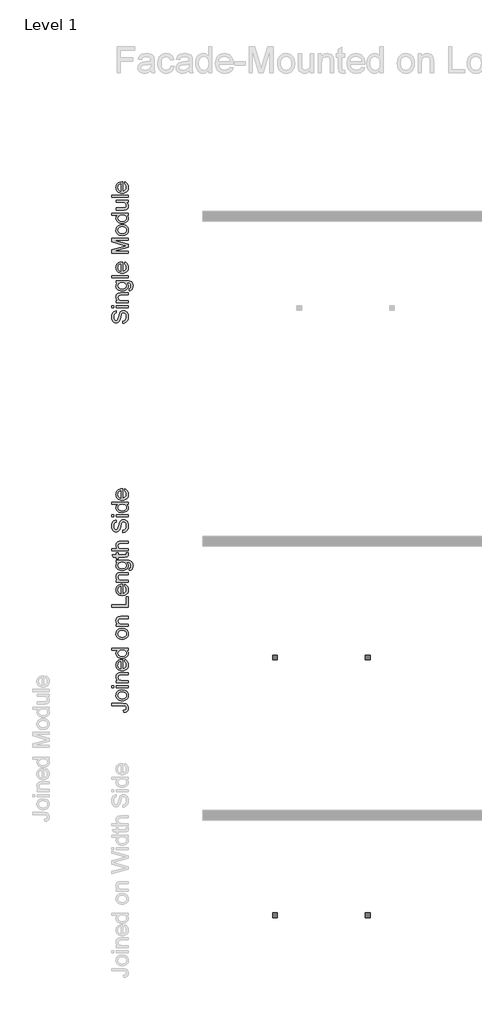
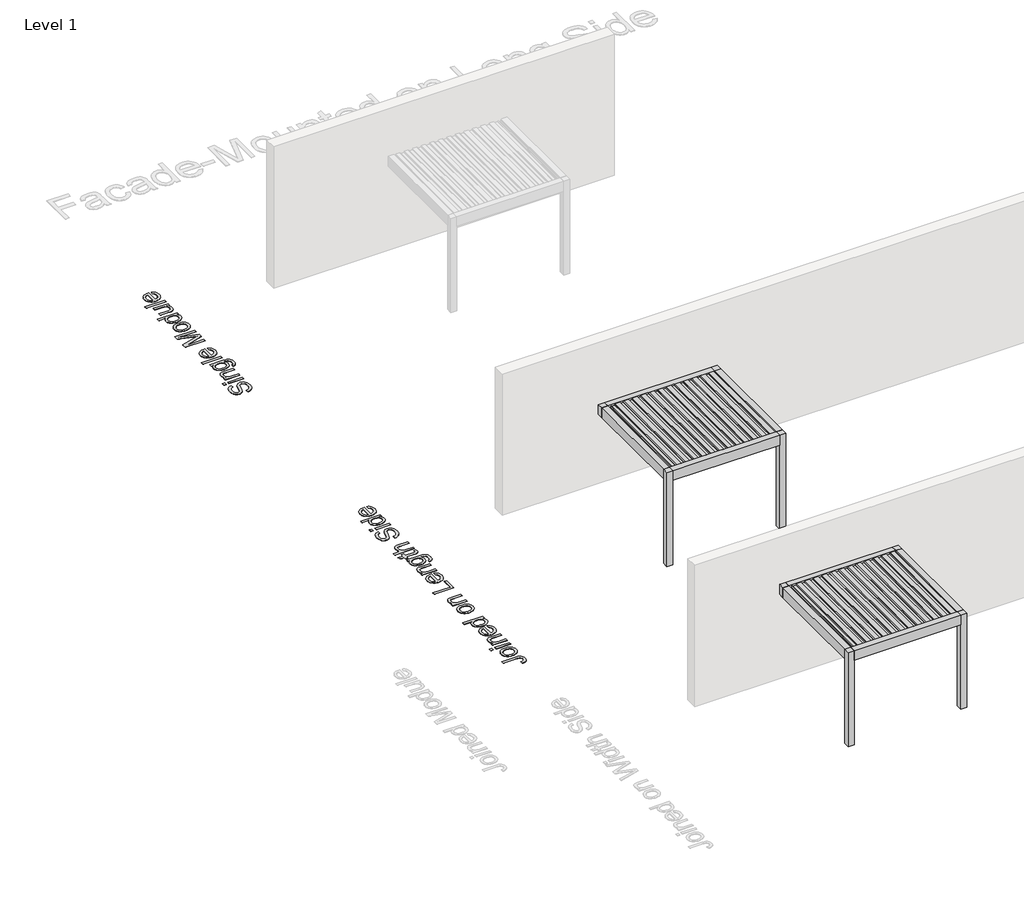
# One storey, part 11 of 69: 4 proxies.
"""IFC4 building model written with IfcOpenShell, lengths in millimetres."""

from ifc_helpers import new_model, si_unit, origin, origin_with_axes, place, context, project, spatial, polyline, outline, extrude, transform, mapped, element, save
from components import generic_models_66309c40

model = new_model("IFC4")

# Units and contexts
model_context = context("Model", 3, world=origin())
ifc_project = project(units=[si_unit("LENGTHUNIT", "METRE", prefix="MILLI")], contexts=[model_context])

# Site, building, storey
site = spatial("IfcSite", under=ifc_project)
building = spatial("IfcBuilding", under=site)
storey = spatial("IfcBuildingStorey", under=building, Name="Level 1", Elevation=0.0)

# Proxies
placement = place(None, origin())
generic_models_shape = generic_models_66309c40(model_context)
element("IfcBuildingElementProxy", 1, Name="Renson_Camargue_Facade-Mounted_Patio covers : Renson_Camargue_Facade-Mounted_Patio covers", ObjectType="Renson_Camargue_Facade-Mounted_Patio covers : Renson_Camargue_Facade-Mounted_Patio covers", at=placement, inside=storey, context=model_context, shape_type="MappedRepresentation", body=[
    mapped(generic_models_shape, transform((-10046.834943, -29650.5588086, 0.0), x_axis=(1.0, 0.0, 0.0), y_axis=(0.0, 1.0, 0.0), z_axis=(0.0, 0.0, 1.0))),
])
element("IfcBuildingElementProxy", 2, Name="Renson_Camargue_Facade-Mounted_Patio covers : Renson_Camargue_Facade-Mounted_Patio covers", ObjectType="Renson_Camargue_Facade-Mounted_Patio covers : Renson_Camargue_Facade-Mounted_Patio covers", at=placement, inside=storey, context=model_context, shape_type="MappedRepresentation", body=[
    mapped(generic_models_shape, transform((-10046.834943, -21725.9863343, 0.0), x_axis=(1.0, 0.0, 0.0), y_axis=(0.0, 1.0, 0.0), z_axis=(0.0, 0.0, 1.0))),
])
element("IfcBuildingElementProxy", 3, Name="500mm Arial", ObjectType="500mm Arial", at=placement, inside=storey, context=model_context, shape_type="SweptSolid", body=[
    extrude(outline(polyline([(-16159.6666242, -12871.2770418), (-16159.6666242, -12808.491848), (-16124.8251336, -12801.2874922), (-16096.8201167, -12788.2583382), (-16074.5939129, -12767.932858), (-16057.0888612, -12738.8395236), (-16045.7305046, -12703.2775974), (-16041.9443858, -12663.5463419), (-16044.8107997, -12628.5668955), (-16053.4100413, -12597.9407194), (-16067.0216751, -12573.1240132), (-16084.9252655, -12555.5729763), (-16105.480672, -12545.1343247), (-16127.047754, -12541.6547741), (-16148.063013, -12544.2606049), (-16166.2271865, -12552.0780973), (-16181.7242155, -12567.9583368), (-16194.7380411, -12594.7524088), (-16218.7116845, -12686.1710846), (-16234.5765955, -12746.181835), (-16249.6750857, -12784.5795183), (-16270.7976436, -12815.8341595), (-16296.3960991, -12837.9837213), (-16325.9186292, -12851.1814878), (-16358.813411, -12855.5807434), (-16395.5862821, -12850.1391555), (-16429.8759497, -12833.814392), (-16445.4036356, -12821.6781182), (-16458.9386273, -12807.0356484), (-16480.0305284, -12770.2321205), (-16492.860413, -12726.0556242), (-16497.1370411, -12677.1579757), (-16492.6611435, -12624.1829684), (-16479.2334507, -12577.829837), (-16457.1298742, -12539.7540505), (-16442.9280963, -12524.4409625), (-16426.6263254, -12511.6110779), (-16389.6235281, -12493.7994579), (-16348.0222058, -12486.7177295), (-16348.0222058, -12549.5029234), (-16368.0564461, -12553.7029095), (-16385.4848556, -12561.0298926), (-16400.3074343, -12571.4838726), (-16412.5241823, -12585.0648496), (-16422.0737857, -12602.0257424), (-16428.894931, -12622.6194699), (-16434.3518473, -12674.7054291), (-16428.9562447, -12728.0176615), (-16422.2117415, -12748.3967912), (-16412.7694369, -12764.5912632), (-16401.4187445, -12776.9306385), (-16388.9490777, -12785.7444779), (-16375.3604365, -12791.0327816), (-16360.6528209, -12792.7955495), (-16336.5258934, -12787.7984858), (-16317.1201182, -12772.8072944), (-16308.4902197, -12759.0423765), (-16299.7683507, -12737.3679956), (-16282.0487013, -12670.2908451), (-16265.2181, -12601.0677164), (-16250.533477, -12559.1904826), (-16227.7554502, -12523.3986301), (-16199.6431344, -12498.4286397), (-16166.503098, -12483.7593452), (-16128.6419093, -12478.8695803), (-16089.9376577, -12484.4951091), (-16053.5326686, -12501.3716957), (-16022.2013854, -12528.8095611), (-15998.7182513, -12566.1189268), (-15984.0489568, -12610.9852018), (-15979.1591919, -12661.0937952), (-15984.4321672, -12722.6067305), (-15991.0233863, -12749.2820073), (-16000.251093, -12773.2364901), (-16012.1306158, -12794.615799), (-16026.677283, -12813.5655538), (-16043.8910947, -12830.0857547), (-16063.7720508, -12844.1764015), (-16085.676358, -12855.5270939), (-16108.9602226, -12863.8274314), (-16133.6236447, -12869.0774141), (-16159.6666242, -12871.2770418)])), origin_with_axes(), (0.0, 0.0, 1.0), 5.0),
    extrude(outline(polyline([(-16426.5036981, -12392.5399388), (-16489.2888919, -12392.5399388), (-16489.2888919, -12329.7547449), (-16426.5036981, -12329.7547449), (-16426.5036981, -12392.5399388)])), origin_with_axes(), (0.0, 0.0, 1.0), 5.0),
    extrude(outline(polyline([(-15987.0073412, -12392.5399388), (-16355.870355, -12392.5399388), (-16355.870355, -12329.7547449), (-15987.0073412, -12329.7547449), (-15987.0073412, -12392.5399388)])), origin_with_axes(), (0.0, 0.0, 1.0), 5.0),
    extrude(outline(polyline([(-15987.0073412, -12235.5769542), (-16355.870355, -12235.5769542), (-16355.870355, -12172.7917603), (-16304.3668757, -12172.7917603), (-16330.3332132, -12150.9794237), (-16348.8805971, -12124.7831599), (-16360.0090274, -12094.2029691), (-16363.7185042, -12059.2388511), (-16360.729463, -12028.2907783), (-16351.7623394, -11999.9485362), (-16337.9361077, -11976.3121181), (-16320.3697425, -11959.4815168), (-16299.1092288, -11948.0618465), (-16274.2005521, -11940.6582214), (-16213.5000229, -11937.3472834), (-15987.0073412, -11937.3472834), (-15987.0073412, -12000.1324772), (-16205.038737, -12000.1324772), (-16237.504323, -12001.9412304), (-16260.5889182, -12007.3674898), (-16277.1282796, -12017.3769458), (-16289.9581642, -12032.9352885), (-16298.1895238, -12052.8775583), (-16300.9333104, -12076.0387956), (-16299.3928045, -12095.1035136), (-16294.771287, -12112.8116667), (-16287.0687577, -12129.163255), (-16276.2852167, -12144.1582784), (-16261.1943907, -12156.6854267), (-16240.5700063, -12165.6333898), (-16214.4120636, -12171.0021677), (-16182.7205626, -12172.7917603), (-15987.0073412, -12172.7917603), (-15987.0073412, -12235.5769542)])), origin_with_axes(), (0.0, 0.0, 1.0), 5.0),
    extrude(outline(polyline([(-15955.6147442, -11866.7139403), (-15947.766595, -11803.9287465), (-15928.1462219, -11797.0003022), (-15914.6572154, -11783.5726094), (-15904.1725786, -11757.1770763), (-15900.6776996, -11722.6268256), (-15904.6324311, -11685.7773124), (-15916.4966254, -11658.3701037), (-15935.5038618, -11639.3628673), (-15960.8877195, -11627.7132708), (-15987.8963893, -11624.3103623), (-16034.0962365, -11623.4213142), (-16013.4948448, -11644.3139458), (-15998.779565, -11667.6284673), (-15989.9503971, -11693.3648785), (-15987.0073412, -11721.5231796), (-15990.4332422, -11755.9469708), (-16000.7109455, -11786.2550823), (-16017.8404509, -11812.4475139), (-16041.8217584, -11834.5242658), (-16070.5931962, -11852.0408137), (-16102.093092, -11864.5526336), (-16136.321446, -11872.0597256), (-16173.2782581, -11874.5620896), (-16223.9693313, -11870.0708635), (-16270.5830458, -11856.5971855), (-16310.084375, -11834.6162362), (-16326.0297602, -11820.6137278), (-16339.4382925, -11804.6031968), (-16350.0608852, -11786.8413942), (-16357.6484513, -11767.585071), (-16362.200991, -11746.8342273), (-16363.7185042, -11724.5888629), (-16360.2849389, -11695.2272811), (-16349.9842431, -11668.5788291), (-16332.8164166, -11644.6435068), (-16308.7814596, -11623.4213142), (-16355.870355, -11623.4213142), (-16355.870355, -11560.6361203), (-16037.4071745, -11560.6361203), (-15963.8767607, -11564.928077), (-15936.5270336, -11570.2930227), (-15915.4542931, -11577.8039468), (-15883.3412606, -11599.9841654), (-15858.7391522, -11632.1891684), (-15849.6187444, -11651.8746872), (-15843.1041674, -11673.7138486), (-15837.8925058, -11723.8530989), (-15839.7280837, -11754.6133986), (-15845.2348173, -11782.269694), (-15854.4127066, -11806.8219851), (-15867.2617517, -11828.2702718), (-15883.797281, -11845.5952145), (-15904.0346228, -11857.7774735), (-15927.9737773, -11864.8170488), (-15955.6147442, -11866.7139403)]), holes=[polyline([(-16177.5702147, -11811.7768957), (-16146.5263392, -11810.1022662), (-16119.981354, -11805.0783777), (-16097.935259, -11796.7052302), (-16080.3880543, -11784.9828237), (-16067.0025146, -11770.7312285), (-16057.4414148, -11754.7705149), (-16051.704755, -11737.1006828), (-16049.792535, -11717.7217323), (-16051.6932587, -11698.534387), (-16057.3954296, -11680.9488612), (-16066.8990478, -11664.9651549), (-16080.2041133, -11650.5832682), (-16097.5788733, -11638.6999133), (-16119.2915753, -11630.2118027), (-16145.342219, -11625.1189363), (-16175.7308047, -11623.4213142), (-16204.8509639, -11625.1687537), (-16230.1620116, -11630.4110721), (-16251.6639478, -11639.1482695), (-16269.3567725, -11651.3803458), (-16283.1715078, -11666.072633), (-16293.0391759, -11682.1904629), (-16298.9597768, -11699.7338356), (-16300.9333104, -11718.7027509), (-16298.9904336, -11737.3536017), (-16293.1618032, -11754.555917), (-16283.4474193, -11770.3096971), (-16269.8472818, -11784.6149417), (-16252.4227044, -11796.4982966), (-16231.2350007, -11804.9864072), (-16206.2841708, -11810.0792736), (-16177.5702147, -11811.7768957)])]), origin_with_axes(), (0.0, 0.0, 1.0), 5.0),
    extrude(outline(polyline([(-15987.0073412, -11466.4583296), (-16489.2888919, -11466.4583296), (-16489.2888919, -11403.6731357), (-15987.0073412, -11403.6731357), (-15987.0073412, -11466.4583296)])), origin_with_axes(), (0.0, 0.0, 1.0), 5.0),
    extrude(outline(polyline([(-16096.8814304, -11051.2421844), (-16089.0332812, -10989.6832638), (-16064.3775233, -10999.1217363), (-16042.6494929, -11011.8634825), (-16023.8491901, -11027.9085024), (-16007.9766149, -11047.2567961), (-15995.3689923, -11069.7090941), (-15986.3635477, -11095.066127), (-15980.9602809, -11123.3278949), (-15979.1591919, -11154.4943977), (-15982.2670284, -11193.4515681), (-15991.5905377, -11228.1627672), (-16007.1297199, -11258.6279949), (-16028.884575, -11284.8472513), (-16056.2496304, -11305.9314881), (-16088.6194139, -11320.9916573), (-16125.9939254, -11330.0277588), (-16168.3731648, -11333.0397927), (-16212.1894433, -11329.997102), (-16250.8093885, -11320.86903), (-16284.2330006, -11305.6555766), (-16312.4602796, -11284.356742), (-16334.8857529, -11258.2064635), (-16350.9039481, -11228.4386787), (-16360.5148652, -11195.0533876), (-16363.7185042, -11158.0505903), (-16360.5225294, -11122.2395773), (-16350.9346049, -11089.8544654), (-16334.9547307, -11060.8952546), (-16312.5829069, -11035.3619449), (-16284.4169416, -11014.5191306), (-16251.0546432, -10999.6314061), (-16212.4960116, -10990.6987714), (-16168.7410468, -10987.7212265), (-16151.818475, -10988.0891085), (-16151.818475, -11270.2545988), (-16126.7641783, -11266.617932), (-16104.8215501, -11259.3867515), (-16085.9905905, -11248.5610574), (-16070.2712994, -11234.1408496), (-16057.8782747, -11216.9232058), (-16049.0261142, -11197.7052037), (-16043.7148179, -11176.4868432), (-16041.9443858, -11153.2681243), (-16045.2246669, -11119.8521765), (-16055.0655103, -11091.7092038), (-16072.0800526, -11068.8392065), (-16096.8814304, -11051.2421844)]), holes=[polyline([(-16214.6036688, -11270.2545988), (-16214.6036688, -11050.5064204), (-16247.7743621, -11058.9983631), (-16271.5027508, -11075.6450234), (-16284.3786206, -11092.7668646), (-16293.5756705, -11112.2492819), (-16299.0939004, -11134.0922754), (-16300.9333104, -11158.295845), (-16295.0625269, -11200.6176028), (-16287.7240475, -11219.0308631), (-16277.4501764, -11235.6123776), (-16264.7160944, -11249.5267477), (-16249.9969825, -11259.9385745), (-16233.2928406, -11266.8478583), (-16214.6036688, -11270.2545988)])]), origin_with_axes(), (0.0, 0.0, 1.0), 5.0),
    extrude(outline(polyline([(-15987.0073412, -10720.8841527), (-16489.2888919, -10720.8841527), (-16489.2888919, -10612.8494734), (-16135.2637852, -10510.0877694), (-16061.3195042, -10489.3637504), (-16141.3951518, -10466.9229487), (-16489.2888919, -10365.8780273), (-16489.2888919, -10257.8433481), (-15987.0073412, -10257.8433481), (-15987.0073412, -10320.6285419), (-16426.5036981, -10320.6285419), (-15987.0073412, -10446.8120663), (-15987.0073412, -10531.9154345), (-16426.5036981, -10658.0989588), (-15987.0073412, -10658.0989588), (-15987.0073412, -10720.8841527)])), origin_with_axes(), (0.0, 0.0, 1.0), 5.0),
    extrude(outline(polyline([(-16171.4388481, -10171.5137066), (-16219.209858, -10168.1184623), (-16260.3743204, -10157.9327296), (-16294.9322353, -10140.9565083), (-16322.8836028, -10117.1897986), (-16340.7488722, -10093.2621405), (-16353.5097789, -10066.8512789), (-16361.1663229, -10037.9572139), (-16363.7185042, -10006.5799454), (-16360.6106678, -9971.9415563), (-16351.2871585, -9940.6217693), (-16335.7479763, -9912.6205846), (-16313.9931212, -9887.9380019), (-16286.7583573, -9867.7926306), (-16254.7794484, -9853.4030796), (-16218.0563947, -9844.7693491), (-16176.589196, -9841.8914389), (-16113.1602087, -9846.9804731), (-16087.1248933, -9853.341766), (-16064.8756968, -9862.2475759), (-16045.6576947, -9873.586772), (-16028.7159624, -9887.2482232), (-16014.0504999, -9903.2319295), (-16001.6613073, -9921.5378908), (-15984.7847208, -9962.2654934), (-15979.1591919, -10006.5799454), (-15982.2555321, -10041.7241722), (-15991.5445524, -10073.3351991), (-16007.0262531, -10101.413026), (-16028.700634, -10125.9576528), (-16056.1998131, -10145.8884263), (-16089.1559085, -10160.1246931), (-16127.5689202, -10168.6664532), (-16171.4388481, -10171.5137066)]), holes=[polyline([(-16171.5614754, -10108.7285127), (-16141.107744, -10106.9120954), (-16114.7390356, -10101.4628433), (-16092.4553501, -10092.3807566), (-16074.2566877, -10079.6658351), (-16060.1200556, -10064.1994629), (-16050.0224613, -10046.8630239), (-16043.9639046, -10027.656518), (-16041.9443858, -10006.5799454), (-16043.975401, -9985.6106717), (-16050.0684465, -9966.4808079), (-16060.2235224, -9949.1903541), (-16074.4406287, -9933.7393103), (-16092.8194, -9921.0243889), (-16115.4594711, -9911.9423021), (-16142.360842, -9906.4930501), (-16173.5235127, -9904.6766327), (-16203.0115539, -9906.5045464), (-16228.6904836, -9911.9882874), (-16250.5603018, -9921.1278557), (-16268.6210085, -9933.9232513), (-16282.7576406, -9949.4317767), (-16292.8552349, -9966.7107342), (-16298.9137915, -9985.7601237), (-16300.9333104, -10006.5799454), (-16298.9214557, -10027.656518), (-16292.8858917, -10046.8630239), (-16282.8266184, -10064.1994629), (-16268.7436358, -10079.6658351), (-16250.5986228, -10092.3807566), (-16228.3532584, -10101.4628433), (-16202.0075426, -10106.9120954), (-16171.5614754, -10108.7285127)])]), origin_with_axes(), (0.0, 0.0, 1.0), 5.0),
    extrude(outline(polyline([(-15987.0073412, -9543.6617681), (-16046.2363424, -9543.6617681), (-16016.8900891, -9562.4467425), (-15995.9284795, -9585.2017767), (-15983.3515138, -9611.9268708), (-15979.1591919, -9642.6220248), (-15985.2292449, -9683.2116716), (-16003.4394036, -9720.3677531), (-16032.5174097, -9751.8216637), (-16071.1910044, -9775.3047977), (-16117.8966894, -9789.9281071), (-16171.0709661, -9794.8025435), (-16223.5861209, -9790.3113175), (-16271.0122414, -9776.8376394), (-16292.1424635, -9766.7362129), (-16310.6515264, -9754.3968377), (-16326.5394301, -9739.8195136), (-16339.8061745, -9723.0042408), (-16357.7404218, -9685.0357532), (-16363.7185042, -9642.8672795), (-16359.441876, -9612.1491329), (-16346.6119915, -9584.9871789), (-16326.9456331, -9561.9638974), (-16302.1595837, -9543.6617681), (-16489.2888919, -9543.6617681), (-16489.2888919, -9480.8765743), (-15987.0073412, -9480.8765743), (-15987.0073412, -9543.6617681)]), holes=[polyline([(-16171.3162207, -9732.0173496), (-16140.8701535, -9730.2469175), (-16114.5244377, -9724.9356212), (-16092.2790733, -9716.0834607), (-16074.1340604, -9703.690436), (-16060.0510777, -9688.8908499), (-16049.9918044, -9672.8190053), (-16043.9562404, -9655.474902), (-16041.9443858, -9636.8585402), (-16043.8642699, -9618.15404), (-16049.6239224, -9600.9134036), (-16059.2233432, -9585.136631), (-16072.6625324, -9570.8237221), (-16090.0487888, -9558.9403672), (-16111.4894113, -9550.4522566), (-16136.9844, -9545.3593902), (-16166.5337548, -9543.6617681), (-16198.930363, -9545.3900471), (-16226.7131179, -9550.5748839), (-16249.8820193, -9559.2162787), (-16268.4370675, -9571.3142314), (-16282.6541737, -9585.9413728), (-16292.8092497, -9602.1703338), (-16298.9022952, -9620.0011142), (-16300.9333104, -9639.4337142), (-16298.9827694, -9658.417958), (-16293.1311464, -9675.7620612), (-16283.3784414, -9691.4660239), (-16269.7246545, -9705.529846), (-16251.8708814, -9717.1181288), (-16229.5182181, -9725.3954737), (-16202.6666645, -9730.3618807), (-16171.3162207, -9732.0173496)])]), origin_with_axes(), (0.0, 0.0, 1.0), 5.0),
    extrude(outline(polyline([(-15987.0073412, -9151.2543066), (-16050.4056717, -9151.2543066), (-16019.2353368, -9173.9710198), (-15996.9708119, -9200.4278666), (-15983.6120969, -9230.6248471), (-15979.1591919, -9264.5619611), (-15982.2861889, -9295.142152), (-15991.6671798, -9323.6070213), (-16005.7693229, -9347.4886942), (-16023.0597767, -9364.3192955), (-16044.0597073, -9375.6469952), (-16069.2902808, -9383.0199636), (-16127.6608907, -9386.6987835), (-16355.870355, -9386.6987835), (-16355.870355, -9323.9135897), (-16157.2140776, -9323.9135897), (-16093.2026104, -9320.1121424), (-16071.8501263, -9310.9610778), (-16055.6173333, -9295.2801077), (-16045.3626227, -9274.1115646), (-16041.9443858, -9248.4977807), (-16045.4392647, -9221.4124688), (-16055.9239016, -9196.0745963), (-16072.4326061, -9175.1819647), (-16093.9996881, -9161.4323751), (-16123.5375466, -9153.7988237), (-16163.9585808, -9151.2543066), (-16355.870355, -9151.2543066), (-16355.870355, -9088.4691128), (-15987.0073412, -9088.4691128), (-15987.0073412, -9151.2543066)])), origin_with_axes(), (0.0, 0.0, 1.0), 5.0),
    extrude(outline(polyline([(-15987.0073412, -9002.1394712), (-16489.2888919, -9002.1394712), (-16489.2888919, -8939.3542774), (-15987.0073412, -8939.3542774), (-15987.0073412, -9002.1394712)])), origin_with_axes(), (0.0, 0.0, 1.0), 5.0),
    extrude(outline(polyline([(-16096.8814304, -8586.923326), (-16089.0332812, -8525.3644055), (-16064.3775233, -8534.8028779), (-16042.6494929, -8547.5446241), (-16023.8491901, -8563.589644), (-16007.9766149, -8582.9379377), (-15995.3689923, -8605.3902357), (-15986.3635477, -8630.7472687), (-15980.9602809, -8659.0090365), (-15979.1591919, -8690.1755393), (-15982.2670284, -8729.1327098), (-15991.5905377, -8763.8439088), (-16007.1297199, -8794.3091366), (-16028.884575, -8820.5283929), (-16056.2496304, -8841.6126298), (-16088.6194139, -8856.672799), (-16125.9939254, -8865.7089005), (-16168.3731648, -8868.7209343), (-16212.1894433, -8865.6782436), (-16250.8093885, -8856.5501716), (-16284.2330006, -8841.3367183), (-16312.4602796, -8820.0378836), (-16334.8857529, -8793.8876051), (-16350.9039481, -8764.1198203), (-16360.5148652, -8730.7345293), (-16363.7185042, -8693.7317319), (-16360.5225294, -8657.920719), (-16350.9346049, -8625.5356071), (-16334.9547307, -8596.5763963), (-16312.5829069, -8571.0430865), (-16284.4169416, -8550.2002722), (-16251.0546432, -8535.3125478), (-16212.4960116, -8526.3799131), (-16168.7410468, -8523.4023682), (-16151.818475, -8523.7702502), (-16151.818475, -8805.9357405), (-16126.7641783, -8802.2990737), (-16104.8215501, -8795.0678932), (-16085.9905905, -8784.2421991), (-16070.2712994, -8769.8219913), (-16057.8782747, -8752.6043475), (-16049.0261142, -8733.3863453), (-16043.7148179, -8712.1679848), (-16041.9443858, -8688.949266), (-16045.2246669, -8655.5333181), (-16055.0655103, -8627.3903455), (-16072.0800526, -8604.5203481), (-16096.8814304, -8586.923326)]), holes=[polyline([(-16214.6036688, -8805.9357405), (-16214.6036688, -8586.187562), (-16247.7743621, -8594.6795047), (-16271.5027508, -8611.326165), (-16284.3786206, -8628.4480062), (-16293.5756705, -8647.9304235), (-16299.0939004, -8669.773417), (-16300.9333104, -8693.9769866), (-16295.0625269, -8736.2987445), (-16287.7240475, -8754.7120047), (-16277.4501764, -8771.2935192), (-16264.7160944, -8785.2078893), (-16249.9969825, -8795.6197162), (-16233.2928406, -8802.5289999), (-16214.6036688, -8805.9357405)])]), origin_with_axes(), (0.0, 0.0, 1.0), 5.0),
])
element("IfcBuildingElementProxy", 4, Name="500mm Arial", ObjectType="500mm Arial", at=placement, inside=storey, context=model_context, shape_type="SweptSolid", body=[
    extrude(outline(polyline([(-16128.0287727, -24838.7531425), (-16136.1221765, -24775.9679487), (-16090.4741523, -24769.4380433), (-16074.0650825, -24763.023101), (-16061.9326409, -24754.5081656), (-16046.9414495, -24731.6994819), (-16041.9443858, -24701.5331583), (-16044.7801428, -24678.3412642), (-16053.287414, -24658.5522786), (-16066.68445, -24643.2851758), (-16084.1895016, -24633.6589302), (-16109.527374, -24628.5545675), (-16146.4228724, -24626.8531133), (-16489.2888919, -24626.8531133), (-16489.2888919, -24564.0679195), (-16147.5265184, -24564.0679195), (-16091.6237835, -24567.8540383), (-16049.976476, -24579.2123949), (-16019.5495693, -24598.8021112), (-15997.308037, -24627.282309), (-15983.6964032, -24663.0435046), (-15979.1591919, -24704.4762143), (-15981.5006076, -24735.4166229), (-15988.5248544, -24762.509599), (-16000.2319325, -24785.7551426), (-16016.6218418, -24805.1532536), (-16037.6332686, -24820.3590428), (-16063.2048994, -24831.0276206), (-16093.3367341, -24837.1589872), (-16128.0287727, -24838.7531425)])), origin_with_axes(), (0.0, 0.0, 1.0), 5.0),
    extrude(outline(polyline([(-16171.4388481, -24477.7382779), (-16219.209858, -24474.3430337), (-16260.3743204, -24464.157301), (-16294.9322353, -24447.1810797), (-16322.8836028, -24423.41437), (-16340.7488722, -24399.4867119), (-16353.5097789, -24373.0758503), (-16361.1663229, -24344.1817853), (-16363.7185042, -24312.8045168), (-16360.6106678, -24278.1661277), (-16351.2871585, -24246.8463407), (-16335.7479763, -24218.8451559), (-16313.9931212, -24194.1625733), (-16286.7583573, -24174.017202), (-16254.7794484, -24159.627651), (-16218.0563947, -24150.9939205), (-16176.589196, -24148.1160103), (-16113.1602087, -24153.2050445), (-16087.1248933, -24159.5663374), (-16064.8756968, -24168.4721473), (-16045.6576947, -24179.8113434), (-16028.7159624, -24193.4727946), (-16014.0504999, -24209.4565009), (-16001.6613073, -24227.7624622), (-15984.7847208, -24268.4900648), (-15979.1591919, -24312.8045168), (-15982.2555321, -24347.9487436), (-15991.5445524, -24379.5597705), (-16007.0262531, -24407.6375973), (-16028.700634, -24432.1822242), (-16056.1998131, -24452.1129977), (-16089.1559085, -24466.3492645), (-16127.5689202, -24474.8910246), (-16171.4388481, -24477.7382779)]), holes=[polyline([(-16171.5614754, -24414.9530841), (-16141.107744, -24413.1366667), (-16114.7390356, -24407.6874147), (-16092.4553501, -24398.6053279), (-16074.2566877, -24385.8904065), (-16060.1200556, -24370.4240343), (-16050.0224613, -24353.0875952), (-16043.9639046, -24333.8810894), (-16041.9443858, -24312.8045168), (-16043.975401, -24291.835243), (-16050.0684465, -24272.7053793), (-16060.2235224, -24255.4149255), (-16074.4406287, -24239.9638817), (-16092.8194, -24227.2489603), (-16115.4594711, -24218.1668735), (-16142.360842, -24212.7176215), (-16173.5235127, -24210.9012041), (-16203.0115539, -24212.7291178), (-16228.6904836, -24218.2128588), (-16250.5603018, -24227.3524271), (-16268.6210085, -24240.1478227), (-16282.7576406, -24255.6563481), (-16292.8552349, -24272.9353055), (-16298.9137915, -24291.9846951), (-16300.9333104, -24312.8045168), (-16298.9214557, -24333.8810894), (-16292.8858917, -24353.0875952), (-16282.8266184, -24370.4240343), (-16268.7436358, -24385.8904065), (-16250.5986228, -24398.6053279), (-16228.3532584, -24407.6874147), (-16202.0075426, -24413.1366667), (-16171.5614754, -24414.9530841)])]), origin_with_axes(), (0.0, 0.0, 1.0), 5.0),
    extrude(outline(polyline([(-16426.5036981, -24077.4826672), (-16489.2888919, -24077.4826672), (-16489.2888919, -24014.6974733), (-16426.5036981, -24014.6974733), (-16426.5036981, -24077.4826672)])), origin_with_axes(), (0.0, 0.0, 1.0), 5.0),
    extrude(outline(polyline([(-15987.0073412, -24077.4826672), (-16355.870355, -24077.4826672), (-16355.870355, -24014.6974733), (-15987.0073412, -24014.6974733), (-15987.0073412, -24077.4826672)])), origin_with_axes(), (0.0, 0.0, 1.0), 5.0),
    extrude(outline(polyline([(-15987.0073412, -23920.5196826), (-16355.870355, -23920.5196826), (-16355.870355, -23857.7344887), (-16304.3668757, -23857.7344887), (-16330.3332132, -23835.9221521), (-16348.8805971, -23809.7258884), (-16360.0090274, -23779.1456975), (-16363.7185042, -23744.1815796), (-16360.729463, -23713.2335067), (-16351.7623394, -23684.8912647), (-16337.9361077, -23661.2548465), (-16320.3697425, -23644.4242452), (-16299.1092288, -23633.0045749), (-16274.2005521, -23625.6009498), (-16213.5000229, -23622.2900118), (-15987.0073412, -23622.2900118), (-15987.0073412, -23685.0752057), (-16205.038737, -23685.0752057), (-16237.504323, -23686.8839588), (-16260.5889182, -23692.3102182), (-16277.1282796, -23702.3196742), (-16289.9581642, -23717.8780169), (-16298.1895238, -23737.8202867), (-16300.9333104, -23760.981524), (-16299.3928045, -23780.046242), (-16294.771287, -23797.7543951), (-16287.0687577, -23814.1059834), (-16276.2852167, -23829.1010068), (-16261.1943907, -23841.6281551), (-16240.5700063, -23850.5761182), (-16214.4120636, -23855.9448961), (-16182.7205626, -23857.7344887), (-15987.0073412, -23857.7344887), (-15987.0073412, -23920.5196826)])), origin_with_axes(), (0.0, 0.0, 1.0), 5.0),
    extrude(outline(polyline([(-16096.8814304, -23277.7072097), (-16089.0332812, -23216.1482891), (-16064.3775233, -23225.5867616), (-16042.6494929, -23238.3285078), (-16023.8491901, -23254.3735277), (-16007.9766149, -23273.7218214), (-15995.3689923, -23296.1741194), (-15986.3635477, -23321.5311523), (-15980.9602809, -23349.7929202), (-15979.1591919, -23380.959423), (-15982.2670284, -23419.9165934), (-15991.5905377, -23454.6277925), (-16007.1297199, -23485.0930202), (-16028.884575, -23511.3122766), (-16056.2496304, -23532.3965135), (-16088.6194139, -23547.4566826), (-16125.9939254, -23556.4927841), (-16168.3731648, -23559.504818), (-16212.1894433, -23556.4621273), (-16250.8093885, -23547.3340553), (-16284.2330006, -23532.120602), (-16312.4602796, -23510.8217673), (-16334.8857529, -23484.6714888), (-16350.9039481, -23454.903704), (-16360.5148652, -23421.518413), (-16363.7185042, -23384.5156156), (-16360.5225294, -23348.7046026), (-16350.9346049, -23316.3194908), (-16334.9547307, -23287.3602799), (-16312.5829069, -23261.8269702), (-16284.4169416, -23240.9841559), (-16251.0546432, -23226.0964314), (-16212.4960116, -23217.1637967), (-16168.7410468, -23214.1862518), (-16151.818475, -23214.5541338), (-16151.818475, -23496.7196241), (-16126.7641783, -23493.0829573), (-16104.8215501, -23485.8517769), (-16085.9905905, -23475.0260827), (-16070.2712994, -23460.6058749), (-16057.8782747, -23443.3882311), (-16049.0261142, -23424.170229), (-16043.7148179, -23402.9518685), (-16041.9443858, -23379.7331497), (-16045.2246669, -23346.3172018), (-16055.0655103, -23318.1742291), (-16072.0800526, -23295.3042318), (-16096.8814304, -23277.7072097)]), holes=[polyline([(-16214.6036688, -23496.7196241), (-16214.6036688, -23276.9714457), (-16247.7743621, -23285.4633884), (-16271.5027508, -23302.1100487), (-16284.3786206, -23319.2318899), (-16293.5756705, -23338.7143072), (-16299.0939004, -23360.5573007), (-16300.9333104, -23384.7608703), (-16295.0625269, -23427.0826281), (-16287.7240475, -23445.4958884), (-16277.4501764, -23462.0774029), (-16264.7160944, -23475.991773), (-16249.9969825, -23486.4035999), (-16233.2928406, -23493.3128836), (-16214.6036688, -23496.7196241)])]), origin_with_axes(), (0.0, 0.0, 1.0), 5.0),
    extrude(outline(polyline([(-15987.0073412, -22923.8047303), (-16046.2363424, -22923.8047303), (-16016.8900891, -22942.5897047), (-15995.9284795, -22965.3447389), (-15983.3515138, -22992.069833), (-15979.1591919, -23022.764987), (-15985.2292449, -23063.3546338), (-16003.4394036, -23100.5107153), (-16032.5174097, -23131.9646259), (-16071.1910044, -23155.4477599), (-16117.8966894, -23170.0710693), (-16171.0709661, -23174.9455057), (-16223.5861209, -23170.4542797), (-16271.0122414, -23156.9806016), (-16292.1424635, -23146.8791751), (-16310.6515264, -23134.5397999), (-16326.5394301, -23119.9624758), (-16339.8061745, -23103.147203), (-16357.7404218, -23065.1787154), (-16363.7185042, -23023.0102417), (-16359.441876, -22992.2920951), (-16346.6119915, -22965.1301411), (-16326.9456331, -22942.1068596), (-16302.1595837, -22923.8047303), (-16489.2888919, -22923.8047303), (-16489.2888919, -22861.0195365), (-15987.0073412, -22861.0195365), (-15987.0073412, -22923.8047303)]), holes=[polyline([(-16171.3162207, -23112.1603118), (-16140.8701535, -23110.3898797), (-16114.5244377, -23105.0785834), (-16092.2790733, -23096.2264229), (-16074.1340604, -23083.8333982), (-16060.0510777, -23069.0338121), (-16049.9918044, -23052.9619675), (-16043.9562404, -23035.6178642), (-16041.9443858, -23017.0015024), (-16043.8642699, -22998.2970022), (-16049.6239224, -22981.0563658), (-16059.2233432, -22965.2795932), (-16072.6625324, -22950.9666843), (-16090.0487888, -22939.0833294), (-16111.4894113, -22930.5952188), (-16136.9844, -22925.5023524), (-16166.5337548, -22923.8047303), (-16198.930363, -22925.5330093), (-16226.7131179, -22930.7178461), (-16249.8820193, -22939.3592409), (-16268.4370675, -22951.4571936), (-16282.6541737, -22966.084335), (-16292.8092497, -22982.313296), (-16298.9022952, -23000.1440764), (-16300.9333104, -23019.5766764), (-16298.9827694, -23038.5609202), (-16293.1311464, -23055.9050234), (-16283.3784414, -23071.6089861), (-16269.7246545, -23085.6728082), (-16251.8708814, -23097.261091), (-16229.5182181, -23105.5384359), (-16202.6666645, -23110.5048429), (-16171.3162207, -23112.1603118)])]), origin_with_axes(), (0.0, 0.0, 1.0), 5.0),
    extrude(outline(polyline([(-16171.4388481, -22586.3343134), (-16219.209858, -22582.9390692), (-16260.3743204, -22572.7533364), (-16294.9322353, -22555.7771152), (-16322.8836028, -22532.0104055), (-16340.7488722, -22508.0827473), (-16353.5097789, -22481.6718858), (-16361.1663229, -22452.7778207), (-16363.7185042, -22421.4005522), (-16360.6106678, -22386.7621631), (-16351.2871585, -22355.4423762), (-16335.7479763, -22327.4411914), (-16313.9931212, -22302.7586088), (-16286.7583573, -22282.6132374), (-16254.7794484, -22268.2236865), (-16218.0563947, -22259.5899559), (-16176.589196, -22256.7120457), (-16113.1602087, -22261.80108), (-16087.1248933, -22268.1623728), (-16064.8756968, -22277.0681828), (-16045.6576947, -22288.4073789), (-16028.7159624, -22302.06883), (-16014.0504999, -22318.0525363), (-16001.6613073, -22336.3584977), (-15984.7847208, -22377.0861002), (-15979.1591919, -22421.4005522), (-15982.2555321, -22456.5447791), (-15991.5445524, -22488.1558059), (-16007.0262531, -22516.2336328), (-16028.700634, -22540.7782597), (-16056.1998131, -22560.7090332), (-16089.1559085, -22574.9453), (-16127.5689202, -22583.48706), (-16171.4388481, -22586.3343134)]), holes=[polyline([(-16171.5614754, -22523.5491196), (-16141.107744, -22521.7327022), (-16114.7390356, -22516.2834502), (-16092.4553501, -22507.2013634), (-16074.2566877, -22494.4864419), (-16060.1200556, -22479.0200697), (-16050.0224613, -22461.6836307), (-16043.9639046, -22442.4771249), (-16041.9443858, -22421.4005522), (-16043.975401, -22400.4312785), (-16050.0684465, -22381.3014148), (-16060.2235224, -22364.010961), (-16074.4406287, -22348.5599172), (-16092.8194, -22335.8449957), (-16115.4594711, -22326.762909), (-16142.360842, -22321.3136569), (-16173.5235127, -22319.4972396), (-16203.0115539, -22321.3251532), (-16228.6904836, -22326.8088942), (-16250.5603018, -22335.9484625), (-16268.6210085, -22348.7438582), (-16282.7576406, -22364.2523835), (-16292.8552349, -22381.531341), (-16298.9137915, -22400.5807306), (-16300.9333104, -22421.4005522), (-16298.9214557, -22442.4771249), (-16292.8858917, -22461.6836307), (-16282.8266184, -22479.0200697), (-16268.7436358, -22494.4864419), (-16250.5986228, -22507.2013634), (-16228.3532584, -22516.2834502), (-16202.0075426, -22521.7327022), (-16171.5614754, -22523.5491196)])]), origin_with_axes(), (0.0, 0.0, 1.0), 5.0),
    extrude(outline(polyline([(-15987.0073412, -22186.0787027), (-16355.870355, -22186.0787027), (-16355.870355, -22123.2935088), (-16304.3668757, -22123.2935088), (-16330.3332132, -22101.4811722), (-16348.8805971, -22075.2849084), (-16360.0090274, -22044.7047176), (-16363.7185042, -22009.7405996), (-16360.729463, -21978.7925268), (-16351.7623394, -21950.4502847), (-16337.9361077, -21926.8138666), (-16320.3697425, -21909.9832653), (-16299.1092288, -21898.563595), (-16274.2005521, -21891.1599699), (-16213.5000229, -21887.8490319), (-15987.0073412, -21887.8490319), (-15987.0073412, -21950.6342257), (-16205.038737, -21950.6342257), (-16237.504323, -21952.4429789), (-16260.5889182, -21957.8692383), (-16277.1282796, -21967.8786943), (-16289.9581642, -21983.437037), (-16298.1895238, -22003.3793068), (-16300.9333104, -22026.5405441), (-16299.3928045, -22045.6052621), (-16294.771287, -22063.3134152), (-16287.0687577, -22079.6650034), (-16276.2852167, -22094.6600269), (-16261.1943907, -22107.1871752), (-16240.5700063, -22116.1351383), (-16214.4120636, -22121.5039162), (-16182.7205626, -22123.2935088), (-15987.0073412, -22123.2935088), (-15987.0073412, -22186.0787027)])), origin_with_axes(), (0.0, 0.0, 1.0), 5.0),
    extrude(outline(polyline([(-15987.0073412, -21597.4675104), (-16489.2888919, -21597.4675104), (-16489.2888919, -21534.6823165), (-16049.792535, -21534.6823165), (-16049.792535, -21283.5415412), (-15987.0073412, -21283.5415412), (-15987.0073412, -21597.4675104)])), origin_with_axes(), (0.0, 0.0, 1.0), 5.0),
    extrude(outline(polyline([(-16096.8814304, -20962.5031867), (-16089.0332812, -20900.9442662), (-16064.3775233, -20910.3827386), (-16042.6494929, -20923.1244848), (-16023.8491901, -20939.1695047), (-16007.9766149, -20958.5177984), (-15995.3689923, -20980.9700964), (-15986.3635477, -21006.3271294), (-15980.9602809, -21034.5888972), (-15979.1591919, -21065.7554), (-15982.2670284, -21104.7125705), (-15991.5905377, -21139.4237695), (-16007.1297199, -21169.8889973), (-16028.884575, -21196.1082536), (-16056.2496304, -21217.1924905), (-16088.6194139, -21232.2526597), (-16125.9939254, -21241.2887612), (-16168.3731648, -21244.300795), (-16212.1894433, -21241.2581043), (-16250.8093885, -21232.1300323), (-16284.2330006, -21216.916579), (-16312.4602796, -21195.6177443), (-16334.8857529, -21169.4674658), (-16350.9039481, -21139.699681), (-16360.5148652, -21106.31439), (-16363.7185042, -21069.3115926), (-16360.5225294, -21033.5005797), (-16350.9346049, -21001.1154678), (-16334.9547307, -20972.156257), (-16312.5829069, -20946.6229472), (-16284.4169416, -20925.7801329), (-16251.0546432, -20910.8924085), (-16212.4960116, -20901.9597738), (-16168.7410468, -20898.9822289), (-16151.818475, -20899.3501109), (-16151.818475, -21181.5156012), (-16126.7641783, -21177.8789344), (-16104.8215501, -21170.6477539), (-16085.9905905, -21159.8220598), (-16070.2712994, -21145.401852), (-16057.8782747, -21128.1842082), (-16049.0261142, -21108.966206), (-16043.7148179, -21087.7478455), (-16041.9443858, -21064.5291267), (-16045.2246669, -21031.1131788), (-16055.0655103, -21002.9702062), (-16072.0800526, -20980.1002088), (-16096.8814304, -20962.5031867)]), holes=[polyline([(-16214.6036688, -21181.5156012), (-16214.6036688, -20961.7674227), (-16247.7743621, -20970.2593654), (-16271.5027508, -20986.9060257), (-16284.3786206, -21004.0278669), (-16293.5756705, -21023.5102842), (-16299.0939004, -21045.3532777), (-16300.9333104, -21069.5568473), (-16295.0625269, -21111.8786052), (-16287.7240475, -21130.2918654), (-16277.4501764, -21146.8733799), (-16264.7160944, -21160.78775), (-16249.9969825, -21171.1995769), (-16233.2928406, -21178.1088606), (-16214.6036688, -21181.5156012)])]), origin_with_axes(), (0.0, 0.0, 1.0), 5.0),
    extrude(outline(polyline([(-15987.0073412, -20836.197035), (-16355.870355, -20836.197035), (-16355.870355, -20773.4118412), (-16304.3668757, -20773.4118412), (-16330.3332132, -20751.5995045), (-16348.8805971, -20725.4032408), (-16360.0090274, -20694.82305), (-16363.7185042, -20659.858932), (-16360.729463, -20628.9108592), (-16351.7623394, -20600.5686171), (-16337.9361077, -20576.9321989), (-16320.3697425, -20560.1015976), (-16299.1092288, -20548.6819274), (-16274.2005521, -20541.2783022), (-16213.5000229, -20537.9673643), (-15987.0073412, -20537.9673643), (-15987.0073412, -20600.7525581), (-16205.038737, -20600.7525581), (-16237.504323, -20602.5613112), (-16260.5889182, -20607.9875707), (-16277.1282796, -20617.9970266), (-16289.9581642, -20633.5553693), (-16298.1895238, -20653.4976392), (-16300.9333104, -20676.6588764), (-16299.3928045, -20695.7235944), (-16294.771287, -20713.4317475), (-16287.0687577, -20729.7833358), (-16276.2852167, -20744.7783592), (-16261.1943907, -20757.3055076), (-16240.5700063, -20766.2534707), (-16214.4120636, -20771.6222486), (-16182.7205626, -20773.4118412), (-15987.0073412, -20773.4118412), (-15987.0073412, -20836.197035)])), origin_with_axes(), (0.0, 0.0, 1.0), 5.0),
    extrude(outline(polyline([(-15955.6147442, -20467.3340212), (-15947.766595, -20404.5488273), (-15928.1462219, -20397.6203831), (-15914.6572154, -20384.1926903), (-15904.1725786, -20357.7971571), (-15900.6776996, -20323.2469064), (-15904.6324311, -20286.3973932), (-15916.4966254, -20258.9901846), (-15935.5038618, -20239.9829482), (-15960.8877195, -20228.3333517), (-15987.8963893, -20224.9304432), (-16034.0962365, -20224.041395), (-16013.4948448, -20244.9340267), (-15998.779565, -20268.2485481), (-15989.9503971, -20293.9849594), (-15987.0073412, -20322.1432604), (-15990.4332422, -20356.5670517), (-16000.7109455, -20386.8751632), (-16017.8404509, -20413.0675948), (-16041.8217584, -20435.1443466), (-16070.5931962, -20452.6608945), (-16102.093092, -20465.1727145), (-16136.321446, -20472.6798064), (-16173.2782581, -20475.1821704), (-16223.9693313, -20470.6909444), (-16270.5830458, -20457.2172663), (-16310.084375, -20435.2363171), (-16326.0297602, -20421.2338087), (-16339.4382925, -20405.2232777), (-16350.0608852, -20387.4614751), (-16357.6484513, -20368.2051519), (-16362.200991, -20347.4543081), (-16363.7185042, -20325.2089437), (-16360.2849389, -20295.847362), (-16349.9842431, -20269.19891), (-16332.8164166, -20245.2635876), (-16308.7814596, -20224.041395), (-16355.870355, -20224.041395), (-16355.870355, -20161.2562012), (-16037.4071745, -20161.2562012), (-15963.8767607, -20165.5481578), (-15936.5270336, -20170.9131036), (-15915.4542931, -20178.4240276), (-15883.3412606, -20200.6042463), (-15858.7391522, -20232.8092493), (-15849.6187444, -20252.4947681), (-15843.1041674, -20274.3339295), (-15837.8925058, -20324.4731797), (-15839.7280837, -20355.2334795), (-15845.2348173, -20382.8897749), (-15854.4127066, -20407.442066), (-15867.2617517, -20428.8903527), (-15883.797281, -20446.2152954), (-15904.0346228, -20458.3975544), (-15927.9737773, -20465.4371296), (-15955.6147442, -20467.3340212)]), holes=[polyline([(-16177.5702147, -20412.3969766), (-16146.5263392, -20410.7223471), (-16119.981354, -20405.6984586), (-16097.935259, -20397.3253111), (-16080.3880543, -20385.6029046), (-16067.0025146, -20371.3513094), (-16057.4414148, -20355.3905957), (-16051.704755, -20337.7207637), (-16049.792535, -20318.3418131), (-16051.6932587, -20299.1544678), (-16057.3954296, -20281.568942), (-16066.8990478, -20265.5852358), (-16080.2041133, -20251.203349), (-16097.5788733, -20239.3199942), (-16119.2915753, -20230.8318835), (-16145.342219, -20225.7390172), (-16175.7308047, -20224.041395), (-16204.8509639, -20225.7888345), (-16230.1620116, -20231.031153), (-16251.6639478, -20239.7683503), (-16269.3567725, -20252.0004267), (-16283.1715078, -20266.6927139), (-16293.0391759, -20282.8105438), (-16298.9597768, -20300.3539164), (-16300.9333104, -20319.3228318), (-16298.9904336, -20337.9736825), (-16293.1618032, -20355.1759979), (-16283.4474193, -20370.9297779), (-16269.8472818, -20385.2350226), (-16252.4227044, -20397.1183775), (-16231.2350007, -20405.6064881), (-16206.2841708, -20410.6993545), (-16177.5702147, -20412.3969766)])]), origin_with_axes(), (0.0, 0.0, 1.0), 5.0),
    extrude(outline(polyline([(-16039.3692118, -19933.6598735), (-15985.1679312, -19925.8117243), (-15979.1591919, -19972.7779923), (-15981.7650227, -20002.9136591), (-15989.5825151, -20025.3851176), (-16001.6306505, -20041.2653571), (-16016.9284101, -20051.6273666), (-16043.2013159, -20057.3295376), (-16088.1748898, -20059.2302612), (-16293.0851612, -20059.2302612), (-16293.0851612, -20106.3191566), (-16355.870355, -20106.3191566), (-16355.870355, -20059.2302612), (-16445.5109345, -20059.2302612), (-16482.4217613, -19996.4450674), (-16355.870355, -19996.4450674), (-16355.870355, -19933.6598735), (-16293.0851612, -19933.6598735), (-16293.0851612, -19996.4450674), (-16090.0142998, -19996.4450674), (-16057.6406842, -19993.1341294), (-16046.1750287, -19982.4042379), (-16041.9443858, -19961.0057685), (-16039.3692118, -19933.6598735)])), origin_with_axes(), (0.0, 0.0, 1.0), 5.0),
    extrude(outline(polyline([(-15987.0073412, -19870.8746797), (-16489.2888919, -19870.8746797), (-16489.2888919, -19808.0894858), (-16304.6121303, -19808.0894858), (-16330.4711689, -19785.0278833), (-16348.9419108, -19759.1305236), (-16360.0243559, -19730.397407), (-16363.7185042, -19698.8285333), (-16359.6871307, -19660.9060309), (-16347.5930101, -19628.3178175), (-16328.3865043, -19602.6580484), (-16303.017975, -19585.5208787), (-16268.161156, -19575.8639764), (-16220.4897808, -19572.6450089), (-15987.0073412, -19572.6450089), (-15987.0073412, -19635.4302028), (-16213.9905322, -19635.4302028), (-16253.292592, -19640.4272665), (-16268.2991117, -19646.6735962), (-16280.2092913, -19655.4184578), (-16289.2760497, -19666.4549177), (-16295.7523056, -19679.5760422), (-16300.9333104, -19712.0722851), (-16297.4384314, -19738.605774), (-16286.9537946, -19763.5144507), (-16270.4910753, -19784.1464993), (-16249.0619491, -19797.8501036), (-16220.5817513, -19805.5296403), (-16182.9658173, -19808.0894858), (-15987.0073412, -19808.0894858), (-15987.0073412, -19870.8746797)])), origin_with_axes(), (0.0, 0.0, 1.0), 5.0),
    extrude(outline(polyline([(-16159.6666242, -19305.8079351), (-16159.6666242, -19243.0227412), (-16124.8251336, -19235.8183855), (-16096.8201167, -19222.7892315), (-16074.5939129, -19202.4637513), (-16057.0888612, -19173.3704168), (-16045.7305046, -19137.8084906), (-16041.9443858, -19098.0772351), (-16044.8107997, -19063.0977888), (-16053.4100413, -19032.4716127), (-16067.0216751, -19007.6549064), (-16084.9252655, -18990.1038696), (-16105.480672, -18979.6652179), (-16127.047754, -18976.1856674), (-16148.063013, -18978.7914982), (-16166.2271865, -18986.6089906), (-16181.7242155, -19002.4892301), (-16194.7380411, -19029.283302), (-16218.7116845, -19120.7019778), (-16234.5765955, -19180.7127283), (-16249.6750857, -19219.1104116), (-16270.7976436, -19250.3650527), (-16296.3960991, -19272.5146145), (-16325.9186292, -19285.7123811), (-16358.813411, -19290.1116366), (-16395.5862821, -19284.6700488), (-16429.8759497, -19268.3452852), (-16445.4036356, -19256.2090115), (-16458.9386273, -19241.5665417), (-16480.0305284, -19204.7630137), (-16492.860413, -19160.5865175), (-16497.1370411, -19111.688869), (-16492.6611435, -19058.7138617), (-16479.2334507, -19012.3607303), (-16457.1298742, -18974.2849438), (-16442.9280963, -18958.9718557), (-16426.6263254, -18946.1419711), (-16389.6235281, -18928.3303512), (-16348.0222058, -18921.2486228), (-16348.0222058, -18984.0338166), (-16368.0564461, -18988.2338027), (-16385.4848556, -18995.5607858), (-16400.3074343, -19006.0147658), (-16412.5241823, -19019.5957428), (-16422.0737857, -19036.5566357), (-16428.894931, -19057.1503632), (-16434.3518473, -19109.2363223), (-16428.9562447, -19162.5485548), (-16422.2117415, -19182.9276845), (-16412.7694369, -19199.1221565), (-16401.4187445, -19211.4615317), (-16388.9490777, -19220.2753712), (-16375.3604365, -19225.5636749), (-16360.6528209, -19227.3264428), (-16336.5258934, -19222.329379), (-16317.1201182, -19207.3381877), (-16308.4902197, -19193.5732697), (-16299.7683507, -19171.8988888), (-16282.0487013, -19104.8217384), (-16265.2181, -19035.5986096), (-16250.533477, -18993.7213758), (-16227.7554502, -18957.9295234), (-16199.6431344, -18932.959533), (-16166.503098, -18918.2902384), (-16128.6419093, -18913.4004736), (-16089.9376577, -18919.0260024), (-16053.5326686, -18935.9025889), (-16022.2013854, -18963.3404544), (-15998.7182513, -19000.6498201), (-15984.0489568, -19045.5160951), (-15979.1591919, -19095.6246885), (-15984.4321672, -19157.1376238), (-15991.0233863, -19183.8129005), (-16000.251093, -19207.7673834), (-16012.1306158, -19229.1466922), (-16026.677283, -19248.0964471), (-16043.8910947, -19264.6166479), (-16063.7720508, -19278.7072948), (-16085.676358, -19290.0579872), (-16108.9602226, -19298.3583247), (-16133.6236447, -19303.6083073), (-16159.6666242, -19305.8079351)])), origin_with_axes(), (0.0, 0.0, 1.0), 5.0),
    extrude(outline(polyline([(-16426.5036981, -18827.070832), (-16489.2888919, -18827.070832), (-16489.2888919, -18764.2856382), (-16426.5036981, -18764.2856382), (-16426.5036981, -18827.070832)])), origin_with_axes(), (0.0, 0.0, 1.0), 5.0),
    extrude(outline(polyline([(-15987.0073412, -18827.070832), (-16355.870355, -18827.070832), (-16355.870355, -18764.2856382), (-15987.0073412, -18764.2856382), (-15987.0073412, -18827.070832)])), origin_with_axes(), (0.0, 0.0, 1.0), 5.0),
    extrude(outline(polyline([(-15987.0073412, -18442.5115197), (-16046.2363424, -18442.5115197), (-16016.8900891, -18461.2964941), (-15995.9284795, -18484.0515284), (-15983.3515138, -18510.7766225), (-15979.1591919, -18541.4717764), (-15985.2292449, -18582.0614232), (-16003.4394036, -18619.2175048), (-16032.5174097, -18650.6714153), (-16071.1910044, -18674.1545494), (-16117.8966894, -18688.7778587), (-16171.0709661, -18693.6522951), (-16223.5861209, -18689.1610691), (-16271.0122414, -18675.687391), (-16292.1424635, -18665.5859646), (-16310.6515264, -18653.2465893), (-16326.5394301, -18638.6692652), (-16339.8061745, -18621.8539924), (-16357.7404218, -18583.8855048), (-16363.7185042, -18541.7170311), (-16359.441876, -18510.9988845), (-16346.6119915, -18483.8369305), (-16326.9456331, -18460.813649), (-16302.1595837, -18442.5115197), (-16489.2888919, -18442.5115197), (-16489.2888919, -18379.7263259), (-15987.0073412, -18379.7263259), (-15987.0073412, -18442.5115197)]), holes=[polyline([(-16171.3162207, -18630.8671013), (-16140.8701535, -18629.0966692), (-16114.5244377, -18623.7853729), (-16092.2790733, -18614.9332123), (-16074.1340604, -18602.5401876), (-16060.0510777, -18587.7406015), (-16049.9918044, -18571.6687569), (-16043.9562404, -18554.3246536), (-16041.9443858, -18535.7082918), (-16043.8642699, -18517.0037917), (-16049.6239224, -18499.7631552), (-16059.2233432, -18483.9863826), (-16072.6625324, -18469.6734737), (-16090.0487888, -18457.7901188), (-16111.4894113, -18449.3020082), (-16136.9844, -18444.2091419), (-16166.5337548, -18442.5115197), (-16198.930363, -18444.2397987), (-16226.7131179, -18449.4246356), (-16249.8820193, -18458.0660303), (-16268.4370675, -18470.163983), (-16282.6541737, -18484.7911245), (-16292.8092497, -18501.0200854), (-16298.9022952, -18518.8508658), (-16300.9333104, -18538.2834658), (-16298.9827694, -18557.2677096), (-16293.1311464, -18574.6118128), (-16283.3784414, -18590.3157755), (-16269.7246545, -18604.3795976), (-16251.8708814, -18615.9678805), (-16229.5182181, -18624.2452254), (-16202.6666645, -18629.2116323), (-16171.3162207, -18630.8671013)])]), origin_with_axes(), (0.0, 0.0, 1.0), 5.0),
    extrude(outline(polyline([(-16096.8814304, -18027.2953745), (-16089.0332812, -17965.736454), (-16064.3775233, -17975.1749264), (-16042.6494929, -17987.9166726), (-16023.8491901, -18003.9616925), (-16007.9766149, -18023.3099862), (-15995.3689923, -18045.7622842), (-15986.3635477, -18071.1193172), (-15980.9602809, -18099.381085), (-15979.1591919, -18130.5475878), (-15982.2670284, -18169.5047583), (-15991.5905377, -18204.2159574), (-16007.1297199, -18234.6811851), (-16028.884575, -18260.9004414), (-16056.2496304, -18281.9846783), (-16088.6194139, -18297.0448475), (-16125.9939254, -18306.080949), (-16168.3731648, -18309.0929828), (-16212.1894433, -18306.0502921), (-16250.8093885, -18296.9222201), (-16284.2330006, -18281.7087668), (-16312.4602796, -18260.4099321), (-16334.8857529, -18234.2596536), (-16350.9039481, -18204.4918689), (-16360.5148652, -18171.1065778), (-16363.7185042, -18134.1037804), (-16360.5225294, -18098.2927675), (-16350.9346049, -18065.9076556), (-16334.9547307, -18036.9484448), (-16312.5829069, -18011.4151351), (-16284.4169416, -17990.5723208), (-16251.0546432, -17975.6845963), (-16212.4960116, -17966.7519616), (-16168.7410468, -17963.7744167), (-16151.818475, -17964.1422987), (-16151.818475, -18246.307789), (-16126.7641783, -18242.6711222), (-16104.8215501, -18235.4399417), (-16085.9905905, -18224.6142476), (-16070.2712994, -18210.1940398), (-16057.8782747, -18192.976396), (-16049.0261142, -18173.7583938), (-16043.7148179, -18152.5400333), (-16041.9443858, -18129.3213145), (-16045.2246669, -18095.9053666), (-16055.0655103, -18067.762394), (-16072.0800526, -18044.8923966), (-16096.8814304, -18027.2953745)]), holes=[polyline([(-16214.6036688, -18246.307789), (-16214.6036688, -18026.5596105), (-16247.7743621, -18035.0515532), (-16271.5027508, -18051.6982135), (-16284.3786206, -18068.8200547), (-16293.5756705, -18088.302472), (-16299.0939004, -18110.1454655), (-16300.9333104, -18134.3490351), (-16295.0625269, -18176.670793), (-16287.7240475, -18195.0840532), (-16277.4501764, -18211.6655678), (-16264.7160944, -18225.5799378), (-16249.9969825, -18235.9917647), (-16233.2928406, -18242.9010484), (-16214.6036688, -18246.307789)])]), origin_with_axes(), (0.0, 0.0, 1.0), 5.0),
])

save(model, "model.ifc")
